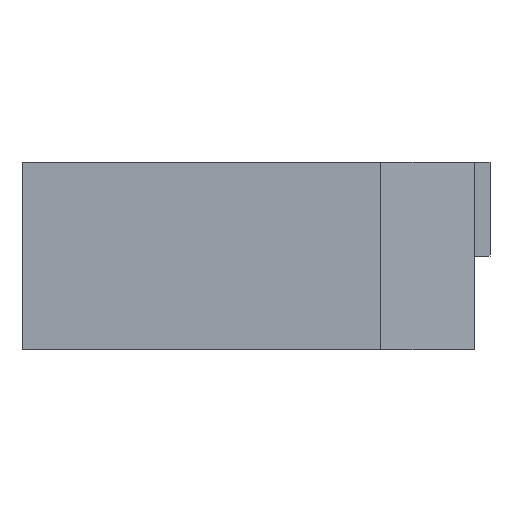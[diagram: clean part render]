
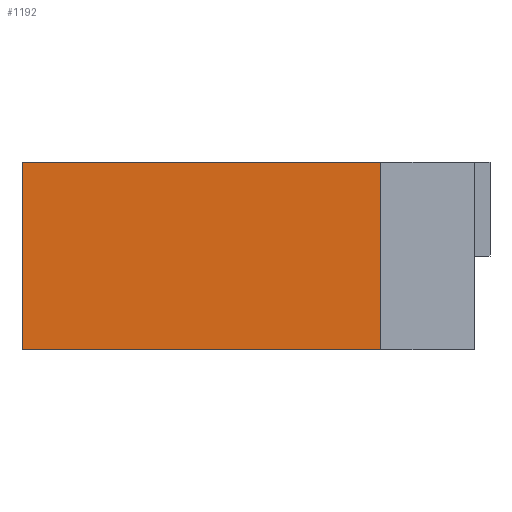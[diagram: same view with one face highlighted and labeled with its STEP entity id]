
A CAD part, left-side view. The second image highlights one B-rep face of the part: STEP entity #1192.
In plain terms, the highlighted planar face has unit normal (-1, 0, 0).
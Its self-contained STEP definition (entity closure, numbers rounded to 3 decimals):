
#2 = CARTESIAN_POINT ( 'NONE',  ( -10., 15., 3. ) ) ;
#6 = VERTEX_POINT ( 'NONE', #619 ) ;
#57 = EDGE_CURVE ( 'NONE', #6, #1254, #800, .T. ) ;
#67 = ORIENTED_EDGE ( 'NONE', *, *, #471, .F. ) ;
#106 = LINE ( 'NONE', #563, #1065 ) ;
#125 = DIRECTION ( 'NONE',  ( 0., 0., 1. ) ) ;
#188 = VECTOR ( 'NONE', #579, 1000. ) ;
#271 = ORIENTED_EDGE ( 'NONE', *, *, #933, .T. ) ;
#273 = CARTESIAN_POINT ( 'NONE',  ( -10., 3.5, -3. ) ) ;
#405 = VERTEX_POINT ( 'NONE', #917 ) ;
#471 = EDGE_CURVE ( 'NONE', #405, #6, #798, .T. ) ;
#474 = LINE ( 'NONE', #1032, #188 ) ;
#538 = FACE_OUTER_BOUND ( 'NONE', #569, .T. ) ;
#563 = CARTESIAN_POINT ( 'NONE',  ( -10., 15., -3. ) ) ;
#569 = EDGE_LOOP ( 'NONE', ( #271, #1165, #680, #67 ) ) ;
#579 = DIRECTION ( 'NONE',  ( 0., 0., 1. ) ) ;
#619 = CARTESIAN_POINT ( 'NONE',  ( -10., 15., 3. ) ) ;
#646 = PLANE ( 'NONE',  #1069 ) ;
#680 = ORIENTED_EDGE ( 'NONE', *, *, #57, .F. ) ;
#798 = LINE ( 'NONE', #1225, #1040 ) ;
#800 = LINE ( 'NONE', #2, #896 ) ;
#823 = EDGE_CURVE ( 'NONE', #1393, #1254, #474, .T. ) ;
#896 = VECTOR ( 'NONE', #1028, 1000. ) ;
#917 = CARTESIAN_POINT ( 'NONE',  ( -10., 15., -3. ) ) ;
#933 = EDGE_CURVE ( 'NONE', #405, #1393, #106, .T. ) ;
#1005 = CARTESIAN_POINT ( 'NONE',  ( -10., 3.5, 3. ) ) ;
#1028 = DIRECTION ( 'NONE',  ( 0., -1., 0. ) ) ;
#1032 = CARTESIAN_POINT ( 'NONE',  ( -10., 3.5, 3. ) ) ;
#1040 = VECTOR ( 'NONE', #125, 1000. ) ;
#1065 = VECTOR ( 'NONE', #1445, 1000. ) ;
#1069 = AXIS2_PLACEMENT_3D ( 'NONE', #1411, #1095, #1422 ) ;
#1095 = DIRECTION ( 'NONE',  ( 1., 0., 0. ) ) ;
#1165 = ORIENTED_EDGE ( 'NONE', *, *, #823, .T. ) ;
#1192 = ADVANCED_FACE ( 'NONE', ( #538 ), #646, .F. ) ;
#1225 = CARTESIAN_POINT ( 'NONE',  ( -10., 15., -3. ) ) ;
#1254 = VERTEX_POINT ( 'NONE', #1005 ) ;
#1393 = VERTEX_POINT ( 'NONE', #273 ) ;
#1411 = CARTESIAN_POINT ( 'NONE',  ( -10., 15., -3. ) ) ;
#1422 = DIRECTION ( 'NONE',  ( 0., 0., -1. ) ) ;
#1445 = DIRECTION ( 'NONE',  ( 0., -1., 0. ) ) ;
